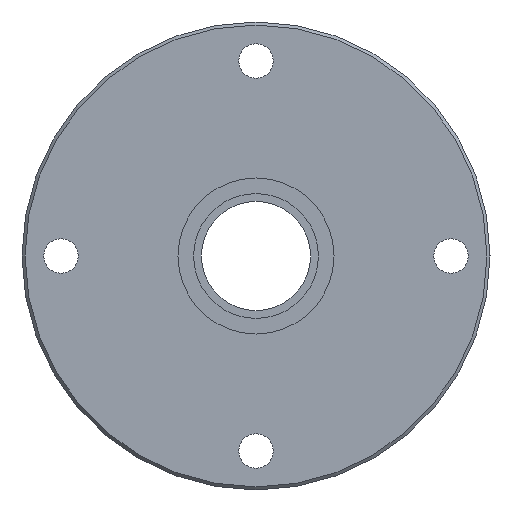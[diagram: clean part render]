
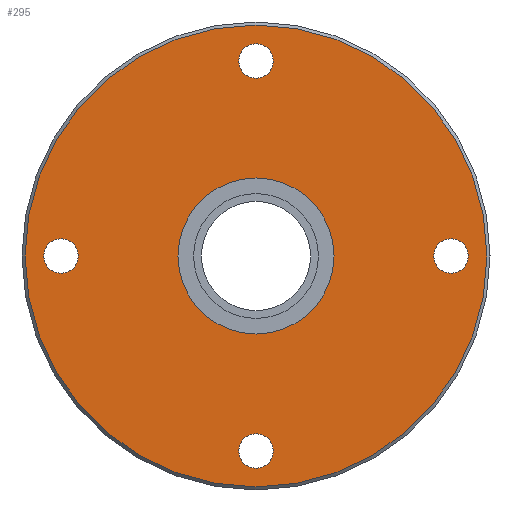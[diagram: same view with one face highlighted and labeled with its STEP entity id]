
A CAD part, left-side view. The second image highlights one B-rep face of the part: STEP entity #295.
In plain terms, the highlighted planar face has unit normal (-1, 0, 0).
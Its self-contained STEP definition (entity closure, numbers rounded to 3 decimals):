
#220=CARTESIAN_POINT('',(2229.26,1091.063,-74.));
#221=VERTEX_POINT('',#220);
#222=CARTESIAN_POINT('',(2229.26,1091.063,0.0));
#223=DIRECTION('',(1.0,0.0,0.0));
#224=DIRECTION('',(0.0,0.0,-1.0));
#225=AXIS2_PLACEMENT_3D('',#222,#223,#224);
#226=CIRCLE('',#225,74.);
#227=EDGE_CURVE('',#221,#221,#226,.T.);
#232=CARTESIAN_POINT('',(2229.26,1066.063,0.0));
#233=DIRECTION('',(1.0,0.0,0.0));
#234=DIRECTION('',(0.0,0.0,-1.0));
#235=AXIS2_PLACEMENT_3D('',#232,#233,#234);
#236=PLANE('',#235);
#237=ORIENTED_EDGE('',*,*,#227,.F.);
#238=EDGE_LOOP('',(#237));
#239=FACE_OUTER_BOUND('',#238,.T.);
#240=CARTESIAN_POINT('',(2229.26,1091.063,-25.));
#241=VERTEX_POINT('',#240);
#242=CARTESIAN_POINT('',(2229.26,1091.063,0.0));
#243=DIRECTION('',(1.0,0.0,0.0));
#244=DIRECTION('',(0.0,0.0,-1.0));
#245=AXIS2_PLACEMENT_3D('',#242,#243,#244);
#246=CIRCLE('',#245,25.);
#247=EDGE_CURVE('',#241,#241,#246,.T.);
#248=ORIENTED_EDGE('',*,*,#247,.T.);
#249=EDGE_LOOP('',(#248));
#250=FACE_BOUND('',#249,.T.);
#251=CARTESIAN_POINT('',(2229.26,1091.063,57.0));
#252=VERTEX_POINT('',#251);
#253=CARTESIAN_POINT('',(2229.26,1091.063,62.5));
#254=DIRECTION('',(1.0,0.0,0.0));
#255=DIRECTION('',(0.0,0.0,-1.0));
#256=AXIS2_PLACEMENT_3D('',#253,#254,#255);
#257=CIRCLE('',#256,5.5);
#258=EDGE_CURVE('',#252,#252,#257,.T.);
#259=ORIENTED_EDGE('',*,*,#258,.T.);
#260=EDGE_LOOP('',(#259));
#261=FACE_BOUND('',#260,.T.);
#262=CARTESIAN_POINT('',(2229.26,1028.563,-5.5));
#263=VERTEX_POINT('',#262);
#264=CARTESIAN_POINT('',(2229.26,1028.563,0.0));
#265=DIRECTION('',(1.0,0.0,0.0));
#266=DIRECTION('',(0.0,0.0,-1.0));
#267=AXIS2_PLACEMENT_3D('',#264,#265,#266);
#268=CIRCLE('',#267,5.5);
#269=EDGE_CURVE('',#263,#263,#268,.T.);
#270=ORIENTED_EDGE('',*,*,#269,.T.);
#271=EDGE_LOOP('',(#270));
#272=FACE_BOUND('',#271,.T.);
#273=CARTESIAN_POINT('',(2229.26,1153.563,-5.5));
#274=VERTEX_POINT('',#273);
#275=CARTESIAN_POINT('',(2229.26,1153.563,0.0));
#276=DIRECTION('',(1.0,0.0,0.0));
#277=DIRECTION('',(0.0,0.0,-1.0));
#278=AXIS2_PLACEMENT_3D('',#275,#276,#277);
#279=CIRCLE('',#278,5.5);
#280=EDGE_CURVE('',#274,#274,#279,.T.);
#281=ORIENTED_EDGE('',*,*,#280,.T.);
#282=EDGE_LOOP('',(#281));
#283=FACE_BOUND('',#282,.T.);
#284=CARTESIAN_POINT('',(2229.26,1091.063,-68.0));
#285=VERTEX_POINT('',#284);
#286=CARTESIAN_POINT('',(2229.26,1091.063,-62.5));
#287=DIRECTION('',(1.0,0.0,0.0));
#288=DIRECTION('',(0.0,0.0,-1.0));
#289=AXIS2_PLACEMENT_3D('',#286,#287,#288);
#290=CIRCLE('',#289,5.5);
#291=EDGE_CURVE('',#285,#285,#290,.T.);
#292=ORIENTED_EDGE('',*,*,#291,.T.);
#293=EDGE_LOOP('',(#292));
#294=FACE_BOUND('',#293,.T.);
#295=ADVANCED_FACE('',(#239,#250,#261,#272,#283,#294),#236,.F.);
